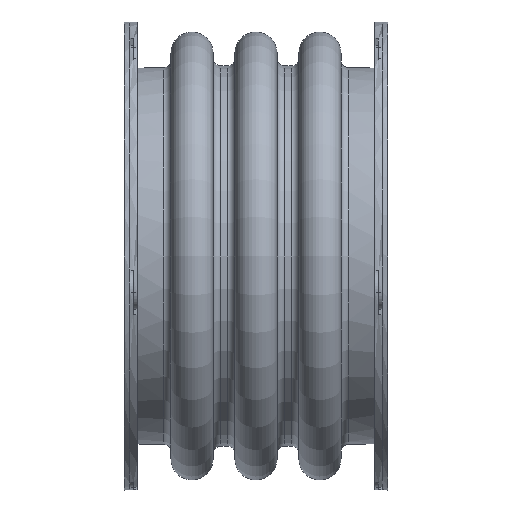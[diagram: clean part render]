
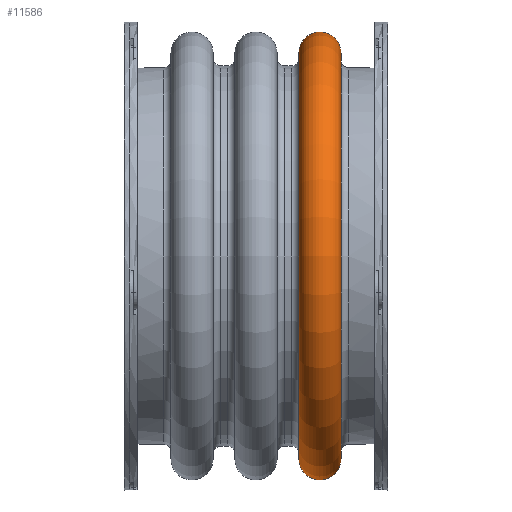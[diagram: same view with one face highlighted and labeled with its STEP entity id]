
A CAD part, front view. The second image highlights one B-rep face of the part: STEP entity #11586.
In plain terms, the highlighted toroidal (fillet/blend) face has major radius 352.425 mm and minor radius 36.513 mm.
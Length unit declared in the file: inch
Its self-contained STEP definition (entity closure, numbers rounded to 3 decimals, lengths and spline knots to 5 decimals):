
#239=FACE_BOUND('',#3209,.T.);
#746=TOROIDAL_SURFACE('',#13199,13.875,1.4375);
#1720=CIRCLE('',#13198,13.92263);
#1721=CIRCLE('',#13200,13.92263);
#2357=FACE_OUTER_BOUND('',#3208,.T.);
#3208=EDGE_LOOP('',(#10133));
#3209=EDGE_LOOP('',(#10134));
#5470=VERTEX_POINT('',#20685);
#5471=VERTEX_POINT('',#20688);
#7036=EDGE_CURVE('',#5470,#5470,#1720,.T.);
#7037=EDGE_CURVE('',#5471,#5471,#1721,.T.);
#10133=ORIENTED_EDGE('',*,*,#7037,.F.);
#10134=ORIENTED_EDGE('',*,*,#7036,.T.);
#11586=ADVANCED_FACE('',(#2357,#239),#746,.T.);
#13198=AXIS2_PLACEMENT_3D('',#20686,#16979,#16980);
#13199=AXIS2_PLACEMENT_3D('',#20687,#16981,#16982);
#13200=AXIS2_PLACEMENT_3D('',#20689,#16983,#16984);
#16979=DIRECTION('center_axis',(1.,0.,0.));
#16980=DIRECTION('ref_axis',(0.,0.,-1.));
#16981=DIRECTION('center_axis',(1.,0.,0.));
#16982=DIRECTION('ref_axis',(0.,0.,-1.));
#16983=DIRECTION('center_axis',(1.,0.,0.));
#16984=DIRECTION('ref_axis',(0.,0.,-1.));
#20685=CARTESIAN_POINT('',(2.93829,13.92263,0.));
#20686=CARTESIAN_POINT('Origin',(2.93829,0.,0.));
#20687=CARTESIAN_POINT('Origin',(4.375,0.,0.));
#20688=CARTESIAN_POINT('',(5.81171,13.92263,0.));
#20689=CARTESIAN_POINT('Origin',(5.81171,0.,
0.));
